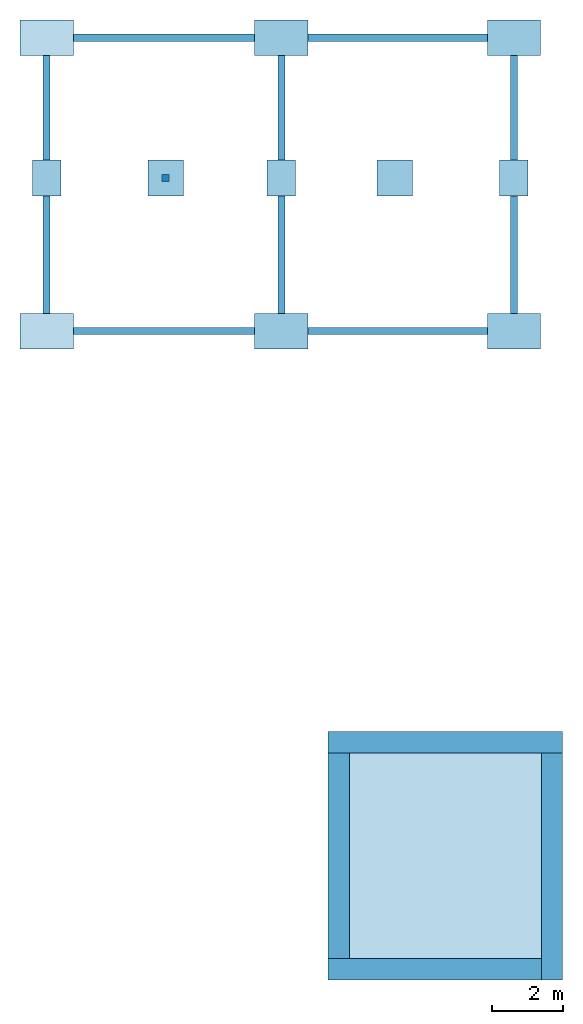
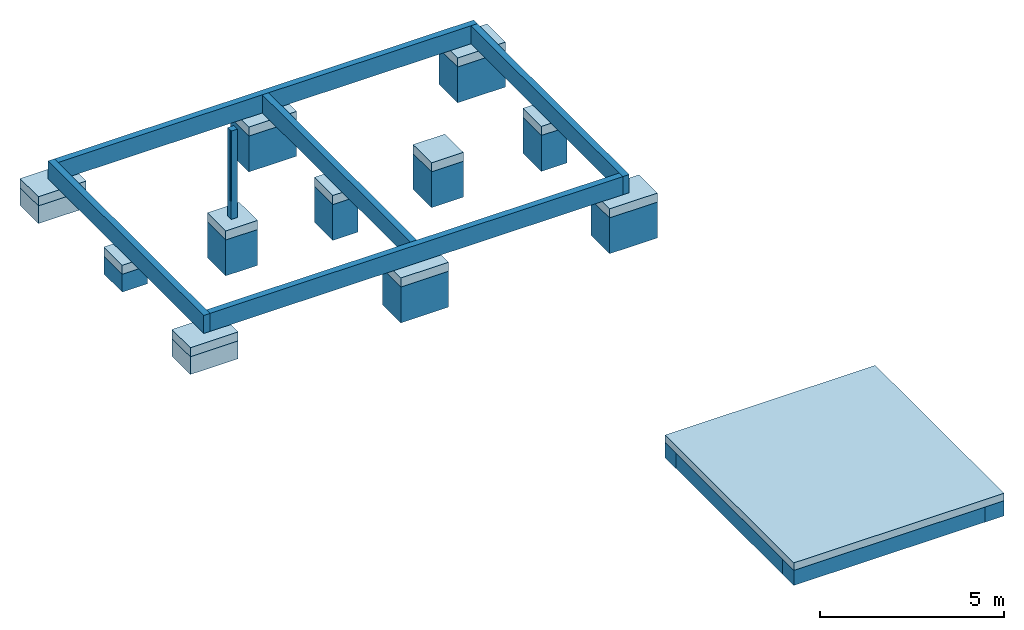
# One storey: 23 slabs, 9 walls, 1 column.
"""IFC2X3 building model written with IfcOpenShell, lengths in metres."""

from ifc_helpers import new_model, entity, si_unit, converted_unit, derived_unit, direction, frame, frame_2d, origin, place, context, subcontext, project, spatial, rectangle, extrude, faceted_brep, source, transform, mapped, material, layer, layer_set, layer_usage, type_object, type_shapes, element, save


model = new_model("IFC2X3")

# Units and contexts
model_context = context("Model", 3, precision=1e-05, world=origin(), true_north=direction((6.12303176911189e-17, 1.0)))
context_of_model = context(None, 3, precision=1e-05, world=origin(), true_north=direction((6.12303176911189e-17, 1.0)))
body_context = subcontext(model_context, "Body", "Model", "MODEL_VIEW")
ifc_project = project(units=[si_unit("LENGTHUNIT", "METRE"), si_unit("AREAUNIT", "SQUARE_METRE"), si_unit("VOLUMEUNIT", "CUBIC_METRE"), converted_unit("PLANEANGLEUNIT", "DEGREE", entity("IfcRatioMeasure", 0.0174532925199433), si_unit("PLANEANGLEUNIT", "RADIAN"), dimensions=[0, 0, 0, 0, 0, 0, 0]), si_unit("MASSUNIT", "GRAM", prefix="KILO"), si_unit("TIMEUNIT", "SECOND"), si_unit("FREQUENCYUNIT", "HERTZ"), si_unit("THERMODYNAMICTEMPERATUREUNIT", "DEGREE_CELSIUS"), derived_unit("THERMALTRANSMITTANCEUNIT", [(si_unit("MASSUNIT", "GRAM", prefix="KILO"), 1), (si_unit("THERMODYNAMICTEMPERATUREUNIT", "KELVIN"), -1), (si_unit("TIMEUNIT", "SECOND"), -3)]), derived_unit("VOLUMETRICFLOWRATEUNIT", [(si_unit("LENGTHUNIT", "METRE"), 3), (si_unit("TIMEUNIT", "SECOND"), -1)]), si_unit("ELECTRICCURRENTUNIT", "AMPERE"), si_unit("ELECTRICVOLTAGEUNIT", "VOLT"), si_unit("POWERUNIT", "WATT"), si_unit("FORCEUNIT", "NEWTON", prefix="KILO"), si_unit("ILLUMINANCEUNIT", "LUX"), si_unit("LUMINOUSFLUXUNIT", "LUMEN"), si_unit("LUMINOUSINTENSITYUNIT", "CANDELA"), derived_unit("USERDEFINED", [(si_unit("MASSUNIT", "GRAM", prefix="KILO"), -1), (si_unit("LENGTHUNIT", "METRE"), -2), (si_unit("TIMEUNIT", "SECOND"), 3), (si_unit("LUMINOUSFLUXUNIT", "LUMEN"), 1)]), derived_unit("LINEARVELOCITYUNIT", [(si_unit("LENGTHUNIT", "METRE"), 1), (si_unit("TIMEUNIT", "SECOND"), -1)]), si_unit("PRESSUREUNIT", "PASCAL"), derived_unit("USERDEFINED", [(si_unit("LENGTHUNIT", "METRE"), -2), (si_unit("MASSUNIT", "GRAM", prefix="KILO"), 1), (si_unit("TIMEUNIT", "SECOND"), -2)])], contexts=[model_context, context_of_model])

# Site, building, storey
site_placement = place(None, origin())
site = spatial("IfcSite", under=ifc_project, at=site_placement, Name="Surface", CompositionType="ELEMENT")
building_placement = place(site_placement, origin())
building = spatial("IfcBuilding", under=site, at=building_placement, CompositionType="ELEMENT")
storey_placement = place(building_placement, frame((0.0, 0.0, -0.6)))
storey = spatial("IfcBuildingStorey", under=building, at=storey_placement, Name="soubassement", CompositionType="ELEMENT", Elevation=-0.6)

# Column
ifc_material_1 = material(Name="Maçonnerie - Béton")
column_type = type_object("IfcColumnType", Name="200 x 200 mm", PredefinedType="COLUMN", material=ifc_material_1)
shared_shape = source(origin(), body_context, "Body", "Brep", [
    faceted_brep([(0.2, 0.2, 2.94), (0.2, 0.0, 2.94), (0.2, 0.0, 0.0), (0.2, 0.2, 0.0), (0.2, 0.2, 0.6), (0.0, 0.2, 2.94), (0.0, 0.2, 0.0), (0.0, 0.0, 0.0), (0.0, 0.0500000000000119, 2.94), (0.0149999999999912, 0.0500000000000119, 2.94), (0.0149999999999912, 0.0, 2.94), (0.0, 0.0, 0.6), (0.0, 0.0500000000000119, 0.6), (0.0149999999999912, 0.0, 0.6), (0.0149999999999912, 0.0500000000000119, 0.6)], [[[0, 1, 2, 3, 4]], [[5, 0, 4, 3, 6]], [[3, 2, 7, 6]], [[0, 5, 8, 9, 10, 1]], [[6, 7, 11, 12, 8, 5]], [[7, 2, 1, 10, 13, 11]], [[14, 9, 8, 12]], [[13, 14, 12, 11]], [[14, 13, 10, 9]]]),
])
type_shapes(column_type, [shared_shape])
column_placement = place(storey_placement, frame((-8.26608881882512, 1.51425578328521, -0.01)))
element("IfcColumn", 1, at=column_placement, inside=storey, type_object=column_type, material=ifc_material_1, Name="Poteau rectangulaire:200 x 200 mm", ObjectType="200 x 200 mm", context=body_context, shape_type="MappedRepresentation", body=[
    mapped(shared_shape, transform((0.0, 0.0, 0.0), scale=1.0)),
])

# Slabs
ifc_material_2 = material(Name="Béton - Béton coulé sur place")
slab_1_placement = place(storey_placement, origin())
element("IfcSlab", 2, at=slab_1_placement, inside=storey, material=ifc_material_2, Name="Base rectangulaire:1500mm x 1000mm x 300mm", ObjectType="Base rectangulaire:1500mm x 1000mm x 300mm", PredefinedType="FLOOR", context=body_context, shape_type="SweptSolid", body=[
    extrude(rectangle(XDim=1.0, YDim=1.5, at=frame_2d((0.0, -5.55111512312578e-16), x_axis=(1.0, 0.0))), frame((-4.90608881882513, -2.6957442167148, -0.3), z_axis=(0.0, 0.0, 1.0), x_axis=(0.0, 1.0, 0.0)), (0.0, 0.0, 1.0), 0.3),
])
slab_2_placement = place(storey_placement, origin())
element("IfcSlab", 3, at=slab_2_placement, inside=storey, material=ifc_material_2, Name="Base rectangulaire:1500mm x 1000mm x 300mm", ObjectType="Base rectangulaire:1500mm x 1000mm x 300mm", PredefinedType="FLOOR", context=body_context, shape_type="SweptSolid", body=[
    extrude(rectangle(XDim=1.0, YDim=1.5, at=frame_2d((0.0, -1.11022302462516e-16), x_axis=(1.0, 0.0))), frame((1.64391118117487, -2.69574421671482, -0.3), z_axis=(0.0, 0.0, 1.0), x_axis=(0.0, 1.0, 0.0)), (0.0, 0.0, 1.0), 0.3),
])
slab_3_placement = place(storey_placement, origin())
element("IfcSlab", 4, at=slab_3_placement, inside=storey, material=ifc_material_2, Name="Base rectangulaire:1500mm x 1000mm x 300mm", ObjectType="Base rectangulaire:1500mm x 1000mm x 300mm", PredefinedType="FLOOR", context=body_context, shape_type="SweptSolid", body=[
    extrude(rectangle(XDim=1.0, YDim=1.5, at=frame_2d((-1.11022302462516e-16, -1.0547118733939e-15), x_axis=(1.0, 0.0))), frame((-11.5160888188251, -2.69574421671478, -0.3), z_axis=(0.0, 0.0, 1.0), x_axis=(0.0, 1.0, 0.0)), (0.0, 0.0, 1.0), 0.3),
])
slab_4_placement = place(storey_placement, origin())
element("IfcSlab", 5, at=slab_4_placement, inside=storey, material=ifc_material_2, Name="Base rectangulaire:1500mm x 1000mm x 300mm", ObjectType="Base rectangulaire:1500mm x 1000mm x 300mm", PredefinedType="FLOOR", context=body_context, shape_type="SweptSolid", body=[
    extrude(rectangle(XDim=1.0, YDim=1.5, at=frame_2d((5.55111512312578e-16, -1.0547118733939e-15), x_axis=(1.0, 0.0))), frame((-11.5160888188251, 5.56425578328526, -0.3), z_axis=(0.0, 0.0, 1.0), x_axis=(0.0, 1.0, 0.0)), (0.0, 0.0, 1.0), 0.3),
])
slab_5_placement = place(storey_placement, origin())
element("IfcSlab", 6, at=slab_5_placement, inside=storey, material=ifc_material_2, Name="Base rectangulaire:1500mm x 1000mm x 300mm", ObjectType="Base rectangulaire:1500mm x 1000mm x 300mm", PredefinedType="FLOOR", context=body_context, shape_type="SweptSolid", body=[
    extrude(rectangle(XDim=1.0, YDim=1.5, at=frame_2d((5.27355936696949e-16, 0.0), x_axis=(1.0, 0.0))), frame((-4.90608881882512, 5.56425578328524, -0.3), z_axis=(0.0, 0.0, 1.0), x_axis=(0.0, 1.0, 0.0)), (0.0, 0.0, 1.0), 0.3),
])
slab_6_placement = place(storey_placement, origin())
element("IfcSlab", 7, at=slab_6_placement, inside=storey, material=ifc_material_2, Name="Base rectangulaire:1500mm x 1000mm x 300mm", ObjectType="Base rectangulaire:1500mm x 1000mm x 300mm", PredefinedType="FLOOR", context=body_context, shape_type="SweptSolid", body=[
    extrude(rectangle(XDim=1.0, YDim=1.5, at=frame_2d((-1.08246744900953e-15, 1.11022302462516e-16), x_axis=(1.0, 0.0))), frame((1.64391118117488, 5.56425578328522, -0.3), z_axis=(0.0, 0.0, 1.0), x_axis=(0.0, 1.0, 0.0)), (0.0, 0.0, 1.0), 0.3),
])
slab_7_placement = place(storey_placement, origin())
element("IfcSlab", 8, at=slab_7_placement, inside=storey, material=ifc_material_2, Name="Base rectangulaire:800mm x 1000mm x 300mm", ObjectType="Base rectangulaire:800mm x 1000mm x 300mm", PredefinedType="FLOOR", context=body_context, shape_type="SweptSolid", body=[
    extrude(rectangle(XDim=1.0, YDim=0.8, at=frame_2d((2.22044604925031e-16, 0.0), x_axis=(1.0, 0.0))), frame((-11.5160888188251, 1.61425578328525, -0.3), z_axis=(0.0, 0.0, 1.0), x_axis=(0.0, 1.0, 0.0)), (0.0, 0.0, 1.0), 0.3),
])
slab_8_placement = place(storey_placement, origin())
element("IfcSlab", 9, at=slab_8_placement, inside=storey, material=ifc_material_2, Name="Base rectangulaire:800mm x 1000mm x 300mm", ObjectType="Base rectangulaire:800mm x 1000mm x 300mm", PredefinedType="FLOOR", context=body_context, shape_type="SweptSolid", body=[
    extrude(rectangle(XDim=1.0, YDim=0.8, at=frame_2d((-1.94289029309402e-16, -2.77555756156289e-16), x_axis=(1.0, 0.0))), frame((-4.90608881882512, 1.61425578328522, -0.3), z_axis=(0.0, 0.0, 1.0), x_axis=(0.0, 1.0, 0.0)), (0.0, 0.0, 1.0), 0.3),
])
slab_9_placement = place(storey_placement, origin())
element("IfcSlab", 10, at=slab_9_placement, inside=storey, material=ifc_material_2, Name="Base rectangulaire:800mm x 1000mm x 300mm", ObjectType="Base rectangulaire:800mm x 1000mm x 300mm", PredefinedType="FLOOR", context=body_context, shape_type="SweptSolid", body=[
    extrude(rectangle(XDim=1.0, YDim=0.8, at=frame_2d((-1.94289029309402e-16, 2.77555756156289e-16), x_axis=(1.0, 0.0))), frame((1.64391118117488, 1.6142557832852, -0.3), z_axis=(0.0, 0.0, 1.0), x_axis=(0.0, 1.0, 0.0)), (0.0, 0.0, 1.0), 0.3),
])
slab_10_placement = place(storey_placement, origin())
element("IfcSlab", 11, at=slab_10_placement, inside=storey, material=ifc_material_2, Name="Base rectangulaire:1000mm x 1000mm x 300mm", ObjectType="Base rectangulaire:1000mm x 1000mm x 300mm", PredefinedType="FLOOR", context=body_context, shape_type="SweptSolid", body=[
    extrude(rectangle(XDim=1.0, YDim=1.0, at=frame_2d((0.0, 5.55111512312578e-17), x_axis=(1.0, 0.0))), frame((-8.16608881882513, 1.61425578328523, -0.3), z_axis=(0.0, 0.0, 1.0), x_axis=(-1.0, 0.0, 0.0)), (0.0, 0.0, 1.0), 0.3),
])
slab_11_placement = place(storey_placement, origin())
element("IfcSlab", 12, at=slab_11_placement, inside=storey, material=ifc_material_2, Name="Base rectangulaire:1000mm x 1000mm x 300mm", ObjectType="Base rectangulaire:1000mm x 1000mm x 300mm", PredefinedType="FLOOR", context=body_context, shape_type="SweptSolid", body=[
    extrude(rectangle(XDim=1.0, YDim=1.0, at=frame_2d((-5.55111512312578e-17, 5.55111512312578e-17), x_axis=(1.0, 0.0))), frame((-1.70608881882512, 1.61425578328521, -0.3), z_axis=(0.0, 0.0, 1.0), x_axis=(-1.0, 0.0, 0.0)), (0.0, 0.0, 1.0), 0.3),
])
slab_12_placement = place(storey_placement, origin())
element("IfcSlab", 13, at=slab_12_placement, inside=storey, material=ifc_material_2, Name="Base rectangulaire:gros beton 1000mm x 1000mm x 1190mm", ObjectType="Base rectangulaire:gros beton 1000mm x 1000mm x 1190mm", PredefinedType="FLOOR", context=body_context, shape_type="SweptSolid", body=[
    extrude(rectangle(XDim=1.0, YDim=1.0, at=frame_2d((0.0, 5.55111512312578e-17), x_axis=(1.0, 0.0))), frame((-8.16608881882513, 1.61425578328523, -1.49), z_axis=(0.0, 0.0, 1.0), x_axis=(-1.0, 0.0, 0.0)), (0.0, 0.0, 1.0), 1.19),
])
slab_13_placement = place(storey_placement, origin())
element("IfcSlab", 14, at=slab_13_placement, inside=storey, material=ifc_material_2, Name="Base rectangulaire:gros beton 1000mm x 1000mm x 1190mm", ObjectType="Base rectangulaire:gros beton 1000mm x 1000mm x 1190mm", PredefinedType="FLOOR", context=body_context, shape_type="SweptSolid", body=[
    extrude(rectangle(XDim=1.0, YDim=1.0, at=frame_2d((-5.55111512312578e-17, 5.55111512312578e-17), x_axis=(1.0, 0.0))), frame((-1.70608881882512, 1.61425578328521, -1.49), z_axis=(0.0, 0.0, 1.0), x_axis=(-1.0, 0.0, 0.0)), (0.0, 0.0, 1.0), 1.19),
])
slab_14_placement = place(storey_placement, origin())
element("IfcSlab", 15, at=slab_14_placement, inside=storey, material=ifc_material_2, Name="Base rectangulaire:gros beton 1500mm x 1000mm x 590mm", ObjectType="Base rectangulaire:gros beton 1500mm x 1000mm x 590mm", PredefinedType="FLOOR", context=body_context, shape_type="SweptSolid", body=[
    extrude(rectangle(XDim=1.0, YDim=1.5, at=frame_2d((5.55111512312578e-16, -1.0547118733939e-15), x_axis=(1.0, 0.0))), frame((-11.5160888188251, 5.56425578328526, -0.89), z_axis=(0.0, 0.0, 1.0), x_axis=(0.0, 1.0, 0.0)), (0.0, 0.0, 1.0), 0.59),
])
slab_15_placement = place(storey_placement, origin())
element("IfcSlab", 16, at=slab_15_placement, inside=storey, material=ifc_material_2, Name="Base rectangulaire:gros beton 1500mm x 1000mm x 1190mm", ObjectType="Base rectangulaire:gros beton 1500mm x 1000mm x 1190mm", PredefinedType="FLOOR", context=body_context, shape_type="SweptSolid", body=[
    extrude(rectangle(XDim=1.0, YDim=1.5, at=frame_2d((5.27355936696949e-16, 0.0), x_axis=(1.0, 0.0))), frame((-4.90608881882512, 5.56425578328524, -1.49), z_axis=(0.0, 0.0, 1.0), x_axis=(0.0, 1.0, 0.0)), (0.0, 0.0, 1.0), 1.19),
])
slab_16_placement = place(storey_placement, origin())
element("IfcSlab", 17, at=slab_16_placement, inside=storey, material=ifc_material_2, Name="Base rectangulaire:gros beton 1500mm x 1000mm x 1190mm", ObjectType="Base rectangulaire:gros beton 1500mm x 1000mm x 1190mm", PredefinedType="FLOOR", context=body_context, shape_type="SweptSolid", body=[
    extrude(rectangle(XDim=1.0, YDim=1.5, at=frame_2d((-1.08246744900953e-15, 1.11022302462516e-16), x_axis=(1.0, 0.0))), frame((1.64391118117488, 5.56425578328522, -1.49), z_axis=(0.0, 0.0, 1.0), x_axis=(0.0, 1.0, 0.0)), (0.0, 0.0, 1.0), 1.19),
])
slab_17_placement = place(storey_placement, origin())
element("IfcSlab", 18, at=slab_17_placement, inside=storey, material=ifc_material_2, Name="Base rectangulaire:gros beton 1500mm x 1000mm x 1190mm", ObjectType="Base rectangulaire:gros beton 1500mm x 1000mm x 1190mm", PredefinedType="FLOOR", context=body_context, shape_type="SweptSolid", body=[
    extrude(rectangle(XDim=1.0, YDim=1.5, at=frame_2d((0.0, -5.55111512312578e-16), x_axis=(1.0, 0.0))), frame((-4.90608881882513, -2.6957442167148, -1.49), z_axis=(0.0, 0.0, 1.0), x_axis=(0.0, 1.0, 0.0)), (0.0, 0.0, 1.0), 1.19),
])
slab_18_placement = place(storey_placement, origin())
element("IfcSlab", 19, at=slab_18_placement, inside=storey, material=ifc_material_2, Name="Base rectangulaire:gros beton 1500mm x 1000mm x 590mm", ObjectType="Base rectangulaire:gros beton 1500mm x 1000mm x 590mm", PredefinedType="FLOOR", context=body_context, shape_type="SweptSolid", body=[
    extrude(rectangle(XDim=1.0, YDim=1.5, at=frame_2d((5.27355936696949e-16, 0.0), x_axis=(1.0, 0.0))), frame((-11.5160888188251, -2.69574421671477, -0.89), z_axis=(0.0, 0.0, 1.0), x_axis=(0.0, 1.0, 0.0)), (0.0, 0.0, 1.0), 0.59),
])
slab_19_placement = place(storey_placement, origin())
element("IfcSlab", 20, at=slab_19_placement, inside=storey, material=ifc_material_2, Name="Base rectangulaire:gros beton 1500mm x 1000mm x 1190mm", ObjectType="Base rectangulaire:gros beton 1500mm x 1000mm x 1190mm", PredefinedType="FLOOR", context=body_context, shape_type="SweptSolid", body=[
    extrude(rectangle(XDim=1.0, YDim=1.5, at=frame_2d((0.0, -1.11022302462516e-16), x_axis=(1.0, 0.0))), frame((1.64391118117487, -2.69574421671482, -1.49), z_axis=(0.0, 0.0, 1.0), x_axis=(0.0, 1.0, 0.0)), (0.0, 0.0, 1.0), 1.19),
])
slab_20_placement = place(storey_placement, origin())
element("IfcSlab", 21, at=slab_20_placement, inside=storey, material=ifc_material_2, Name="Base rectangulaire:gros beton 1000mm x 800mm x 590mm", ObjectType="Base rectangulaire:gros beton 1000mm x 800mm x 590mm", PredefinedType="FLOOR", context=body_context, shape_type="SweptSolid", body=[
    extrude(rectangle(XDim=1.0, YDim=0.8, at=frame_2d((8.32667268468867e-17, 0.0), x_axis=(1.0, 0.0))), frame((-11.5160888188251, 1.61425578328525, -0.89), z_axis=(0.0, 0.0, 1.0), x_axis=(0.0, 1.0, 0.0)), (0.0, 0.0, 1.0), 0.59),
])
slab_21_placement = place(storey_placement, origin())
element("IfcSlab", 22, at=slab_21_placement, inside=storey, material=ifc_material_2, Name="Base rectangulaire:gros beton 1000mm x 800mm x 1190mm", ObjectType="Base rectangulaire:gros beton 1000mm x 800mm x 1190mm", PredefinedType="FLOOR", context=body_context, shape_type="SweptSolid", body=[
    extrude(rectangle(XDim=1.0, YDim=0.799999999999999, at=frame_2d((1.94289029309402e-16, 2.77555756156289e-16), x_axis=(1.0, 0.0))), frame((-4.90608881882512, 1.61425578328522, -1.49), z_axis=(0.0, 0.0, 1.0), x_axis=(0.0, 1.0, 0.0)), (0.0, 0.0, 1.0), 1.19),
])
slab_22_placement = place(storey_placement, origin())
element("IfcSlab", 23, at=slab_22_placement, inside=storey, material=ifc_material_2, Name="Base rectangulaire:gros beton 1000mm x 800mm x 1190mm", ObjectType="Base rectangulaire:gros beton 1000mm x 800mm x 1190mm", PredefinedType="FLOOR", context=body_context, shape_type="SweptSolid", body=[
    extrude(rectangle(XDim=1.0, YDim=0.8, at=frame_2d((-1.94289029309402e-16, 2.77555756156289e-16), x_axis=(1.0, 0.0))), frame((1.64391118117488, 1.6142557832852, -1.49), z_axis=(0.0, 0.0, 1.0), x_axis=(0.0, 1.0, 0.0)), (0.0, 0.0, 1.0), 1.19),
])
ifc_layer_1 = layer(ifc_material_1, 0.25)
ifc_layer_set_1 = layer_set([ifc_layer_1], Name="Sol:Dalle en béton - 250 mm")
ifc_layer_usage_1 = layer_usage(ifc_layer_set_1, "AXIS3", "POSITIVE", 0.0)
slab_23_placement = place(storey_placement, origin())
element("IfcSlab", 24, at=slab_23_placement, inside=storey, material=ifc_layer_usage_1, Name="Sol:Dalle en béton - 250 mm", ObjectType="Sol:Dalle en béton - 250 mm", PredefinedType="FLOOR", context=body_context, shape_type="SweptSolid", body=[
    extrude(rectangle(XDim=6.99999999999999, YDim=6.6, at=frame_2d((2.22044604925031e-15, 4.21884749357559e-15), x_axis=(1.0, 0.0))), frame((-0.285064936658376, -17.4735833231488, 0.6), z_axis=(0.0, 0.0, -1.0), x_axis=(0.0, 1.0, 0.0)), (0.0, 0.0, 1.0), 0.25),
])

# Walls
ifc_material_3 = material(Name="Maçonnerie - Voile BA")
ifc_layer_2 = layer(ifc_material_3, 0.2)
ifc_layer_set_2 = layer_set([ifc_layer_2], Name="Mur de base:Ext. longrine 20 x 60")
ifc_layer_usage_2 = layer_usage(ifc_layer_set_2, "AXIS2", "NEGATIVE", 0.1)
wall_type_1 = type_object("IfcWallType", Name="Mur de base:Ext. longrine 20 x 60", PredefinedType="STANDARD", material=ifc_layer_set_2)
wall_1_placement = place(storey_placement, frame((-11.5160888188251, -2.79574421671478, 0.0), z_axis=(0.0, 0.0, 1.0), x_axis=(0.0, 1.0, 0.0)))
element("IfcWallStandardCase", 25, at=wall_1_placement, inside=storey, type_object=wall_type_1, material=ifc_layer_usage_2, Name="Mur de base:Ext. longrine 20 x 60", ObjectType="Mur de base:Ext. longrine 20 x 60", context=body_context, shape_type="SweptSolid", body=[
    extrude(rectangle(XDim=8.46000000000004, YDim=0.199999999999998, at=frame_2d((4.23000000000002, 1.59594559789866e-16), x_axis=(-1.0, 0.0))), origin(), (0.0, 0.0, 1.0), 0.6),
])
ifc_layer_usage_3 = layer_usage(ifc_layer_set_2, "AXIS2", "NEGATIVE", 0.1)
wall_2_placement = place(storey_placement, frame((-11.4160888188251, 5.56425578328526, 0.0)))
element("IfcWallStandardCase", 26, at=wall_2_placement, inside=storey, type_object=wall_type_1, material=ifc_layer_usage_3, Name="Mur de base:Ext. longrine 20 x 60", ObjectType="Mur de base:Ext. longrine 20 x 60", context=body_context, shape_type="SweptSolid", body=[
    extrude(rectangle(XDim=13.16, YDim=0.2, at=frame_2d((6.58, 0.0), x_axis=(-1.0, 0.0))), origin(), (0.0, 0.0, 1.0), 0.6),
])
ifc_layer_usage_4 = layer_usage(ifc_layer_set_2, "AXIS2", "NEGATIVE", 0.1)
wall_3_placement = place(storey_placement, frame((1.64391118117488, 5.46425578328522, 0.0), z_axis=(0.0, 0.0, 1.0), x_axis=(0.0, -1.0, 0.0)))
element("IfcWallStandardCase", 27, at=wall_3_placement, inside=storey, type_object=wall_type_1, material=ifc_layer_usage_4, Name="Mur de base:Ext. longrine 20 x 60", ObjectType="Mur de base:Ext. longrine 20 x 60", context=body_context, shape_type="SweptSolid", body=[
    extrude(rectangle(XDim=8.26000000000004, YDim=0.2, at=frame_2d((4.13000000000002, 0.0), x_axis=(-1.0, 0.0))), origin(), (0.0, 0.0, 1.0), 0.6),
])
ifc_layer_usage_5 = layer_usage(ifc_layer_set_2, "AXIS2", "POSITIVE", -0.1)
wall_4_placement = place(storey_placement, frame((1.54391118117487, -2.69574421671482, 0.0), z_axis=(0.0, 0.0, 1.0), x_axis=(-1.0, 0.0, 0.0)))
element("IfcWallStandardCase", 28, at=wall_4_placement, inside=storey, type_object=wall_type_1, material=ifc_layer_usage_5, Name="Mur de base:Ext. longrine 20 x 60", ObjectType="Mur de base:Ext. longrine 20 x 60", context=body_context, shape_type="SweptSolid", body=[
    extrude(rectangle(XDim=12.96, YDim=0.2, at=frame_2d((6.48, 2.22044604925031e-16), x_axis=(-1.0, 0.0))), origin(), (0.0, 0.0, 1.0), 0.6),
])
ifc_layer_usage_6 = layer_usage(ifc_layer_set_2, "AXIS2", "NEGATIVE", 0.1)
wall_5_placement = place(storey_placement, frame((-4.90608881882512, 5.46425578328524, 0.0), z_axis=(0.0, 0.0, 1.0), x_axis=(0.0, -1.0, 0.0)))
element("IfcWallStandardCase", 29, at=wall_5_placement, inside=storey, type_object=wall_type_1, material=ifc_layer_usage_6, Name="Mur de base:Ext. longrine 20 x 60", ObjectType="Mur de base:Ext. longrine 20 x 60", context=body_context, shape_type="SweptSolid", body=[
    extrude(rectangle(XDim=8.06000000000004, YDim=0.200000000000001, at=frame_2d((4.03000000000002, 2.0122792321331e-16), x_axis=(-1.0, 0.0))), origin(), (0.0, 0.0, 1.0), 0.6),
])
ifc_material_4 = material(Name="FONDATIONS")
ifc_layer_3 = layer(ifc_material_4, 0.6)
ifc_layer_set_3 = layer_set([ifc_layer_3], Name="Mur de base:fond 60 cm")
ifc_layer_usage_7 = layer_usage(ifc_layer_set_3, "AXIS2", "NEGATIVE", 0.3)
wall_type_2 = type_object("IfcWallType", Name="Mur de base:fond 60 cm", PredefinedType="STANDARD", material=ifc_layer_set_3)
wall_6_placement = place(storey_placement, frame((-3.58506493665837, -14.2735833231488, -0.15)))
element("IfcWallStandardCase", 30, at=wall_6_placement, inside=storey, type_object=wall_type_2, material=ifc_layer_usage_7, Name="Mur de base:fond 60 cm", ObjectType="Mur de base:fond 60 cm", context=body_context, shape_type="SweptSolid", body=[
    extrude(rectangle(XDim=6.60000000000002, YDim=0.599999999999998, at=frame_2d((3.30000000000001, -2.77555756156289e-16), x_axis=(-1.0, 0.0))), origin(), (0.0, 0.0, 1.0), 0.5),
])
ifc_layer_usage_8 = layer_usage(ifc_layer_set_3, "AXIS2", "NEGATIVE", 0.3)
wall_7_placement = place(storey_placement, frame((2.71493506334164, -14.5735833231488, -0.15), z_axis=(0.0, 0.0, 1.0), x_axis=(0.0, -1.0, 0.0)))
element("IfcWallStandardCase", 31, at=wall_7_placement, inside=storey, type_object=wall_type_2, material=ifc_layer_usage_8, Name="Mur de base:fond 60 cm", ObjectType="Mur de base:fond 60 cm", context=body_context, shape_type="SweptSolid", body=[
    extrude(rectangle(XDim=6.4, YDim=0.6, at=frame_2d((3.2, 2.77555756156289e-17), x_axis=(-1.0, 0.0))), origin(), (0.0, 0.0, 1.0), 0.5),
])
ifc_layer_usage_9 = layer_usage(ifc_layer_set_3, "AXIS2", "NEGATIVE", 0.3)
wall_8_placement = place(storey_placement, frame((2.41493506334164, -20.6735833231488, -0.15), z_axis=(0.0, 0.0, 1.0), x_axis=(-1.0, 0.0, 0.0)))
element("IfcWallStandardCase", 32, at=wall_8_placement, inside=storey, type_object=wall_type_2, material=ifc_layer_usage_9, Name="Mur de base:fond 60 cm", ObjectType="Mur de base:fond 60 cm", context=body_context, shape_type="SweptSolid", body=[
    extrude(rectangle(XDim=6.00000000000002, YDim=0.600000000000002, at=frame_2d((3.00000000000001, -1.22124532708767e-15), x_axis=(-1.0, 0.0))), origin(), (0.0, 0.0, 1.0), 0.5),
])
ifc_layer_usage_10 = layer_usage(ifc_layer_set_3, "AXIS2", "NEGATIVE", 0.3)
wall_9_placement = place(storey_placement, frame((-3.28506493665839, -20.3735833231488, -0.15), z_axis=(0.0, 0.0, 1.0), x_axis=(0.0, 1.0, 0.0)))
element("IfcWallStandardCase", 33, at=wall_9_placement, inside=storey, type_object=wall_type_2, material=ifc_layer_usage_10, Name="Mur de base:fond 60 cm", ObjectType="Mur de base:fond 60 cm", context=body_context, shape_type="SweptSolid", body=[
    extrude(rectangle(XDim=5.80000000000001, YDim=0.6, at=frame_2d((2.9, 1.38777878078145e-16), x_axis=(-1.0, 0.0))), origin(), (0.0, 0.0, 1.0), 0.5),
])

save(model, "model.ifc")
